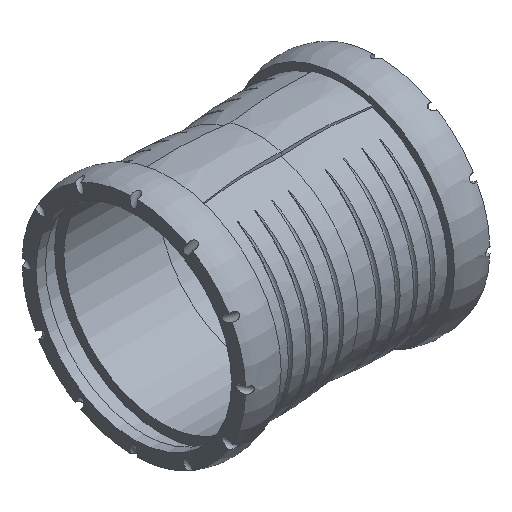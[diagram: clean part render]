
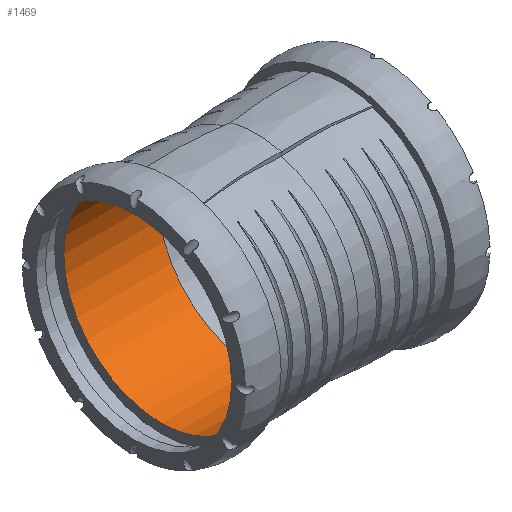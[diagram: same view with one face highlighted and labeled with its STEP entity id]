
A CAD part, isometric view. The second image highlights one B-rep face of the part: STEP entity #1469.
In plain terms, the highlighted cylindrical face has radius 55.5 mm (diameter 111 mm), a full revolution.
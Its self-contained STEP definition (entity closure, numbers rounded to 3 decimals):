
#68=CYLINDRICAL_SURFACE('',#1599,55.5);
#177=FACE_OUTER_BOUND('',#466,.T.);
#348=FACE_BOUND('',#467,.T.);
#466=EDGE_LOOP('',(#1267));
#467=EDGE_LOOP('',(#1268));
#502=CIRCLE('',#1539,55.5);
#530=CIRCLE('',#1598,55.5);
#606=VERTEX_POINT('',#4483);
#680=VERTEX_POINT('',#7095);
#782=EDGE_CURVE('',#606,#606,#502,.T.);
#882=EDGE_CURVE('',#680,#680,#530,.T.);
#1267=ORIENTED_EDGE('',*,*,#782,.F.);
#1268=ORIENTED_EDGE('',*,*,#882,.T.);
#1469=ADVANCED_FACE('',(#177,#348),#68,.F.);
#1539=AXIS2_PLACEMENT_3D('',#4484,#1728,#1729);
#1598=AXIS2_PLACEMENT_3D('',#7096,#1846,#1847);
#1599=AXIS2_PLACEMENT_3D('',#7097,#1848,#1849);
#1728=DIRECTION('center_axis',(-1.,0.,0.));
#1729=DIRECTION('ref_axis',(0.,0.,
1.));
#1846=DIRECTION('center_axis',(-1.,0.,0.));
#1847=DIRECTION('ref_axis',(0.,0.,
-1.));
#1848=DIRECTION('center_axis',(-1.,0.,0.));
#1849=DIRECTION('ref_axis',(0.,-1.,0.));
#4483=CARTESIAN_POINT('',(0.,0.,
-55.5));
#4484=CARTESIAN_POINT('Origin',(0.,0.,
0.));
#7095=CARTESIAN_POINT('',(-53.8,-55.5,0.));
#7096=CARTESIAN_POINT('Origin',(-53.8,0.,
0.));
#7097=CARTESIAN_POINT('Origin',(-29.4,0.,
0.));
